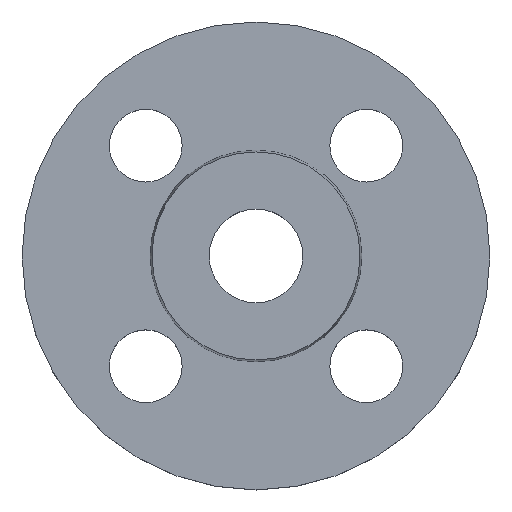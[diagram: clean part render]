
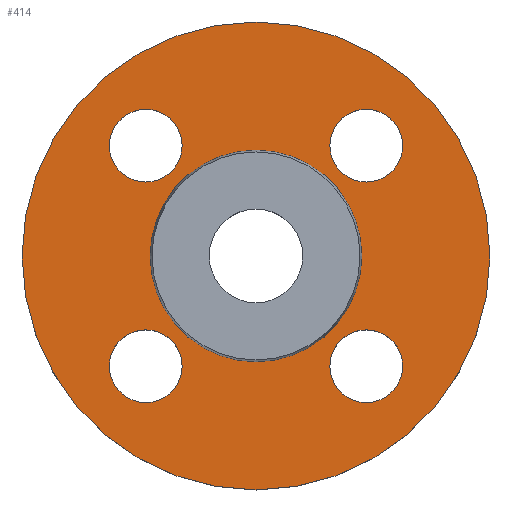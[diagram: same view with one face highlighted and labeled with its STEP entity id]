
A CAD part, top view. The second image highlights one B-rep face of the part: STEP entity #414.
In plain terms, the highlighted planar face has unit normal (0, 0, 1).
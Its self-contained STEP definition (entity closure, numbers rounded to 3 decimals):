
#4 = CARTESIAN_POINT ( 'NONE',  ( -14.213, 21.213, -2. ) ) ;
#7 = CARTESIAN_POINT ( 'NONE',  ( -28.213, 21.213, -2. ) ) ;
#12 = AXIS2_PLACEMENT_3D ( 'NONE', #513, #545, #102 ) ;
#14 = CARTESIAN_POINT ( 'NONE',  ( 14.213, -21.213, -2. ) ) ;
#21 = CARTESIAN_POINT ( 'NONE',  ( -28.213, -21.213, -2. ) ) ;
#22 = CIRCLE ( 'NONE', #12, 45. ) ;
#30 = CARTESIAN_POINT ( 'NONE',  ( 45., 0., -2. ) ) ;
#32 = CARTESIAN_POINT ( 'NONE',  ( 28.213, -21.213, -2. ) ) ;
#33 = CARTESIAN_POINT ( 'NONE',  ( -45., 0., -2. ) ) ;
#49 = AXIS2_PLACEMENT_3D ( 'NONE', #578, #77, #366 ) ;
#59 = AXIS2_PLACEMENT_3D ( 'NONE', #376, #411, #423 ) ;
#70 = VERTEX_POINT ( 'NONE', #33 ) ;
#71 = VERTEX_POINT ( 'NONE', #32 ) ;
#73 = VERTEX_POINT ( 'NONE', #30 ) ;
#75 = CIRCLE ( 'NONE', #149, 20.353 ) ;
#77 = DIRECTION ( 'NONE',  ( 0., 0., -1. ) ) ;
#79 = CIRCLE ( 'NONE', #381, 7. ) ;
#86 = CIRCLE ( 'NONE', #49, 7. ) ;
#87 = DIRECTION ( 'NONE',  ( 0., 0., -1. ) ) ;
#90 = VERTEX_POINT ( 'NONE', #21 ) ;
#97 = VERTEX_POINT ( 'NONE', #14 ) ;
#102 = DIRECTION ( 'NONE',  ( -1., 0., 0. ) ) ;
#104 = ORIENTED_EDGE ( 'NONE', *, *, #182, .T. ) ;
#107 = VERTEX_POINT ( 'NONE', #7 ) ;
#111 = VERTEX_POINT ( 'NONE', #4 ) ;
#122 = ORIENTED_EDGE ( 'NONE', *, *, #494, .T. ) ;
#124 = ORIENTED_EDGE ( 'NONE', *, *, #225, .T. ) ;
#130 = VERTEX_POINT ( 'NONE', #546 ) ;
#131 = EDGE_LOOP ( 'NONE', ( #224, #231 ) ) ;
#132 = CARTESIAN_POINT ( 'NONE',  ( 28.213, 21.213, -2. ) ) ;
#138 = CARTESIAN_POINT ( 'NONE',  ( 21.213, -21.213, -2. ) ) ;
#146 = DIRECTION ( 'NONE',  ( 0., 0., -1. ) ) ;
#149 = AXIS2_PLACEMENT_3D ( 'NONE', #535, #539, #540 ) ;
#153 = DIRECTION ( 'NONE',  ( 1., 0., 0. ) ) ;
#155 = EDGE_LOOP ( 'NONE', ( #124, #217 ) ) ;
#156 = EDGE_LOOP ( 'NONE', ( #234, #214 ) ) ;
#177 = CARTESIAN_POINT ( 'NONE',  ( 14.213, 21.213, -2. ) ) ;
#180 = VERTEX_POINT ( 'NONE', #132 ) ;
#182 = EDGE_CURVE ( 'NONE', #71, #97, #322, .T. ) ;
#188 = CARTESIAN_POINT ( 'NONE',  ( -21.213, -21.213, -2. ) ) ;
#194 = DIRECTION ( 'NONE',  ( 0., 0., -1. ) ) ;
#197 = DIRECTION ( 'NONE',  ( 1., 0., 0. ) ) ;
#199 = CARTESIAN_POINT ( 'NONE',  ( -20.353, 0., -2. ) ) ;
#200 = AXIS2_PLACEMENT_3D ( 'NONE', #188, #194, #197 ) ;
#204 = CIRCLE ( 'NONE', #200, 7. ) ;
#208 = CIRCLE ( 'NONE', #492, 7. ) ;
#214 = ORIENTED_EDGE ( 'NONE', *, *, #560, .T. ) ;
#217 = ORIENTED_EDGE ( 'NONE', *, *, #487, .T. ) ;
#219 = CARTESIAN_POINT ( 'NONE',  ( 20.353, 0., -2. ) ) ;
#221 = VERTEX_POINT ( 'NONE', #177 ) ;
#222 = EDGE_LOOP ( 'NONE', ( #104, #122 ) ) ;
#224 = ORIENTED_EDGE ( 'NONE', *, *, #341, .T. ) ;
#225 = EDGE_CURVE ( 'NONE', #130, #90, #204, .T. ) ;
#226 = VERTEX_POINT ( 'NONE', #199 ) ;
#229 = EDGE_LOOP ( 'NONE', ( #230, #235 ) ) ;
#230 = ORIENTED_EDGE ( 'NONE', *, *, #553, .T. ) ;
#231 = ORIENTED_EDGE ( 'NONE', *, *, #337, .T. ) ;
#233 = CARTESIAN_POINT ( 'NONE',  ( 21.213, -21.213, -2. ) ) ;
#234 = ORIENTED_EDGE ( 'NONE', *, *, #340, .T. ) ;
#235 = ORIENTED_EDGE ( 'NONE', *, *, #445, .T. ) ;
#236 = ORIENTED_EDGE ( 'NONE', *, *, #419, .F. ) ;
#237 = ORIENTED_EDGE ( 'NONE', *, *, #437, .F. ) ;
#239 = AXIS2_PLACEMENT_3D ( 'NONE', #233, #87, #572 ) ;
#262 = VERTEX_POINT ( 'NONE', #219 ) ;
#266 = FACE_BOUND ( 'NONE', #222, .T. ) ;
#280 = EDGE_LOOP ( 'NONE', ( #236, #237 ) ) ;
#283 = CIRCLE ( 'NONE', #412, 45. ) ;
#311 = FACE_BOUND ( 'NONE', #155, .T. ) ;
#316 = AXIS2_PLACEMENT_3D ( 'NONE', #138, #146, #153 ) ;
#317 = FACE_BOUND ( 'NONE', #156, .T. ) ;
#322 = CIRCLE ( 'NONE', #316, 7. ) ;
#324 = FACE_BOUND ( 'NONE', #131, .T. ) ;
#337 = EDGE_CURVE ( 'NONE', #221, #180, #451, .T. ) ;
#339 = CIRCLE ( 'NONE', #493, 20.353 ) ;
#340 = EDGE_CURVE ( 'NONE', #111, #107, #79, .T. ) ;
#341 = EDGE_CURVE ( 'NONE', #180, #221, #476, .T. ) ;
#342 = FACE_BOUND ( 'NONE', #229, .T. ) ;
#345 = FACE_OUTER_BOUND ( 'NONE', #280, .T. ) ;
#346 = PLANE ( 'NONE',  #59 ) ;
#352 = CARTESIAN_POINT ( 'NONE',  ( 21.213, 21.213, -2. ) ) ;
#354 = DIRECTION ( 'NONE',  ( 0., 0., -1. ) ) ;
#359 = CARTESIAN_POINT ( 'NONE',  ( -21.213, 21.213, -2. ) ) ;
#363 = DIRECTION ( 'NONE',  ( 1., 0., 0. ) ) ;
#366 = DIRECTION ( 'NONE',  ( 1., 0., 0. ) ) ;
#368 = DIRECTION ( 'NONE',  ( 1., 0., 0. ) ) ;
#370 = CARTESIAN_POINT ( 'NONE',  ( 21.213, 21.213, -2. ) ) ;
#371 = DIRECTION ( 'NONE',  ( 0., 0., -1. ) ) ;
#372 = DIRECTION ( 'NONE',  ( 1., 0., 0. ) ) ;
#373 = DIRECTION ( 'NONE',  ( 0., 0., -1. ) ) ;
#376 = CARTESIAN_POINT ( 'NONE',  ( 20.353, 0., -2. ) ) ;
#381 = AXIS2_PLACEMENT_3D ( 'NONE', #359, #373, #368 ) ;
#402 = CIRCLE ( 'NONE', #239, 7. ) ;
#411 = DIRECTION ( 'NONE',  ( 0., 0., 1. ) ) ;
#412 = AXIS2_PLACEMENT_3D ( 'NONE', #456, #459, #462 ) ;
#414 = ADVANCED_FACE ( 'NONE', ( #266, #311, #317, #324, #342, #345 ), #346, .T. ) ;
#419 = EDGE_CURVE ( 'NONE', #73, #70, #22, .T. ) ;
#423 = DIRECTION ( 'NONE',  ( 1., 0., 0. ) ) ;
#437 = EDGE_CURVE ( 'NONE', #70, #73, #283, .T. ) ;
#445 = EDGE_CURVE ( 'NONE', #262, #226, #75, .T. ) ;
#451 = CIRCLE ( 'NONE', #523, 7. ) ;
#456 = CARTESIAN_POINT ( 'NONE',  ( 0., 0., -2. ) ) ;
#459 = DIRECTION ( 'NONE',  ( 0., 0., -1. ) ) ;
#462 = DIRECTION ( 'NONE',  ( -1., 0., 0. ) ) ;
#476 = CIRCLE ( 'NONE', #516, 7. ) ;
#487 = EDGE_CURVE ( 'NONE', #90, #130, #86, .T. ) ;
#492 = AXIS2_PLACEMENT_3D ( 'NONE', #508, #507, #506 ) ;
#493 = AXIS2_PLACEMENT_3D ( 'NONE', #530, #529, #527 ) ;
#494 = EDGE_CURVE ( 'NONE', #97, #71, #402, .T. ) ;
#506 = DIRECTION ( 'NONE',  ( 1., 0., 0. ) ) ;
#507 = DIRECTION ( 'NONE',  ( 0., 0., -1. ) ) ;
#508 = CARTESIAN_POINT ( 'NONE',  ( -21.213, 21.213, -2. ) ) ;
#513 = CARTESIAN_POINT ( 'NONE',  ( 0., 0., -2. ) ) ;
#516 = AXIS2_PLACEMENT_3D ( 'NONE', #370, #371, #372 ) ;
#523 = AXIS2_PLACEMENT_3D ( 'NONE', #352, #354, #363 ) ;
#527 = DIRECTION ( 'NONE',  ( -1., 0., 0. ) ) ;
#529 = DIRECTION ( 'NONE',  ( 0., 0., -1. ) ) ;
#530 = CARTESIAN_POINT ( 'NONE',  ( 0., 0., -2. ) ) ;
#535 = CARTESIAN_POINT ( 'NONE',  ( 0., 0., -2. ) ) ;
#539 = DIRECTION ( 'NONE',  ( 0., 0., -1. ) ) ;
#540 = DIRECTION ( 'NONE',  ( -1., 0., 0. ) ) ;
#545 = DIRECTION ( 'NONE',  ( 0., 0., -1. ) ) ;
#546 = CARTESIAN_POINT ( 'NONE',  ( -14.213, -21.213, -2. ) ) ;
#553 = EDGE_CURVE ( 'NONE', #226, #262, #339, .T. ) ;
#560 = EDGE_CURVE ( 'NONE', #107, #111, #208, .T. ) ;
#572 = DIRECTION ( 'NONE',  ( 1., 0., 0. ) ) ;
#578 = CARTESIAN_POINT ( 'NONE',  ( -21.213, -21.213, -2. ) ) ;
